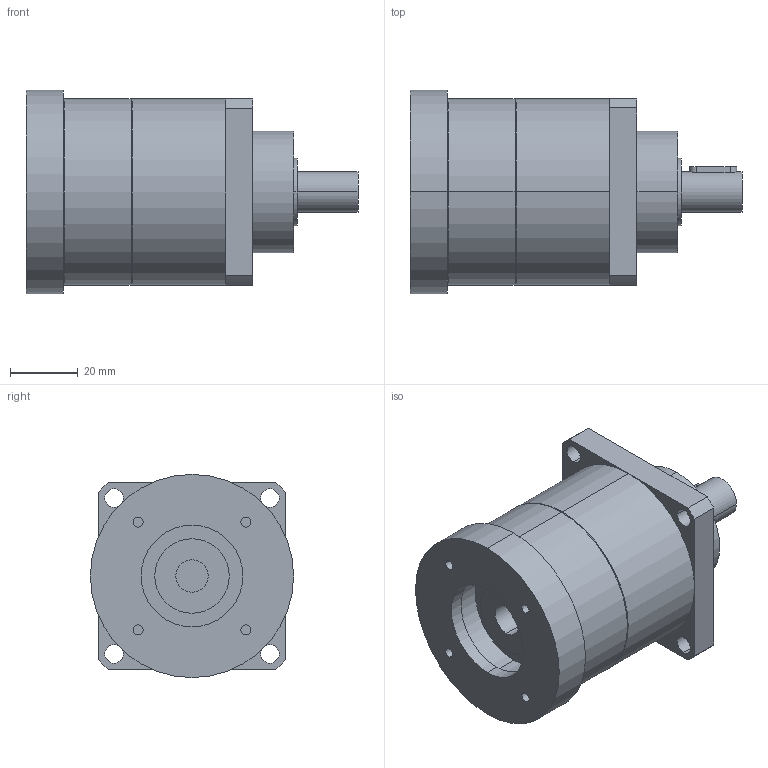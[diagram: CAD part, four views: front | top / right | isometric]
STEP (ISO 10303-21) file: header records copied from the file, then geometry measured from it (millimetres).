
FILE_DESCRIPTION(('CoCreate Modeling STEP Export'),'2;1');
FILE_NAME('GPT55_ig-3-4-5-7-10_12_B5A_9.52_P29.stp','2014-08-25T14:35:17',(''),(''),'CoCreate Modeling STEP processor for AP214 (Solid Model)','CoCreate Modeling 16.00C 25-Feb-2009 (C) Parametric Technology GmbH','');
FILE_SCHEMA(('AUTOMOTIVE_DESIGN { 1 0 10303 214 1 1 1 1 }'));
Length unit declared in the file: millimetre
Products named in the file (2): GPT55_ig-3-4-5-7-10_12_B5A_9.52_P29
Assembly tree (1 placements, depth 2):
  GPT55_ig-3-4-5-7-10_12_B5A_9.52_P29
    GPT55_ig-3-4-5-7-10_12_B5A_9.52_P29
Bounding box: 98 x 60 x 60 mm (x, y, z)
Volume: 173707.6 mm3; surface area: 24374.6 mm2
Topology: 1 solids, 1 shells, 75 faces, 187 edges, 128 vertices
Faces by surface type: cylinder 44, plane 27, cone 4
Entity records: 2307 total; most frequent: CARTESIAN_POINT 672, ORIENTED_EDGE 374, DIRECTION 278, EDGE_CURVE 187, VERTEX_POINT 128, AXIS2_PLACEMENT_3D 104, EDGE_LOOP 97, FACE_OUTER_BOUND 75
